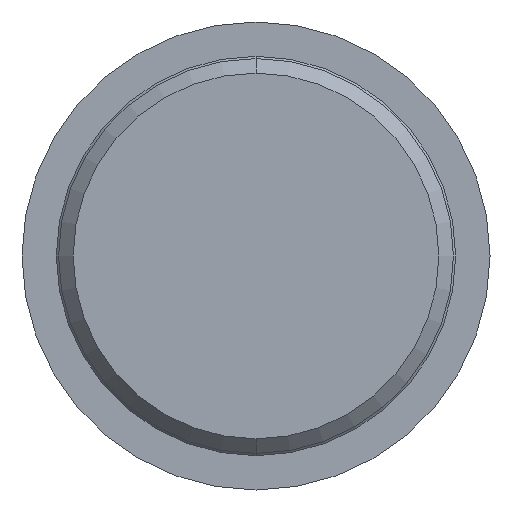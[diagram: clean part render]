
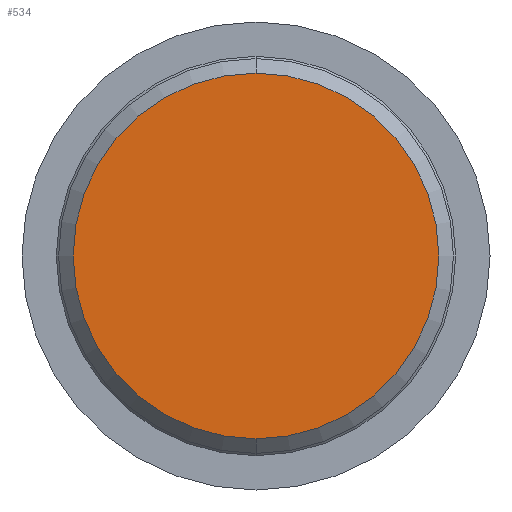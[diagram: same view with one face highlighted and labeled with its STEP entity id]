
A CAD part, front view. The second image highlights one B-rep face of the part: STEP entity #534.
In plain terms, the highlighted planar face has unit normal (0, -1, 0).
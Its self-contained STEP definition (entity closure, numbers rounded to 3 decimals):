
#81 = DIRECTION ( 'NONE',  ( 0., 0., 1. ) ) ;
#139 = AXIS2_PLACEMENT_3D ( 'NONE', #361, #707, #81 ) ;
#181 = EDGE_CURVE ( 'NONE', #210, #358, #182, .T. ) ;
#182 = CIRCLE ( 'NONE', #139, 12.5 ) ;
#205 = EDGE_CURVE ( 'NONE', #358, #210, #621, .T. ) ;
#210 = VERTEX_POINT ( 'NONE', #540 ) ;
#250 = DIRECTION ( 'NONE',  ( 0., 0., 1. ) ) ;
#283 = AXIS2_PLACEMENT_3D ( 'NONE', #531, #649, #250 ) ;
#332 = ORIENTED_EDGE ( 'NONE', *, *, #181, .F. ) ;
#335 = FACE_OUTER_BOUND ( 'NONE', #620, .T. ) ;
#358 = VERTEX_POINT ( 'NONE', #743 ) ;
#361 = CARTESIAN_POINT ( 'NONE',  ( 0., 0., 0. ) ) ;
#399 = DIRECTION ( 'NONE',  ( 0., 0., 1. ) ) ;
#483 = AXIS2_PLACEMENT_3D ( 'NONE', #699, #560, #399 ) ;
#531 = CARTESIAN_POINT ( 'NONE',  ( 0., 0., 0. ) ) ;
#534 = ADVANCED_FACE ( 'NONE', ( #335 ), #573, .F. ) ;
#540 = CARTESIAN_POINT ( 'NONE',  ( 0., 0., 12.5 ) ) ;
#560 = DIRECTION ( 'NONE',  ( 0., 1., 0. ) ) ;
#573 = PLANE ( 'NONE',  #483 ) ;
#620 = EDGE_LOOP ( 'NONE', ( #332, #691 ) ) ;
#621 = CIRCLE ( 'NONE', #283, 12.5 ) ;
#649 = DIRECTION ( 'NONE',  ( 0., 1., 0. ) ) ;
#691 = ORIENTED_EDGE ( 'NONE', *, *, #205, .F. ) ;
#699 = CARTESIAN_POINT ( 'NONE',  ( 12.5, 0., 0. ) ) ;
#707 = DIRECTION ( 'NONE',  ( 0., 1., 0. ) ) ;
#743 = CARTESIAN_POINT ( 'NONE',  ( 0., 0., -12.5 ) ) ;
